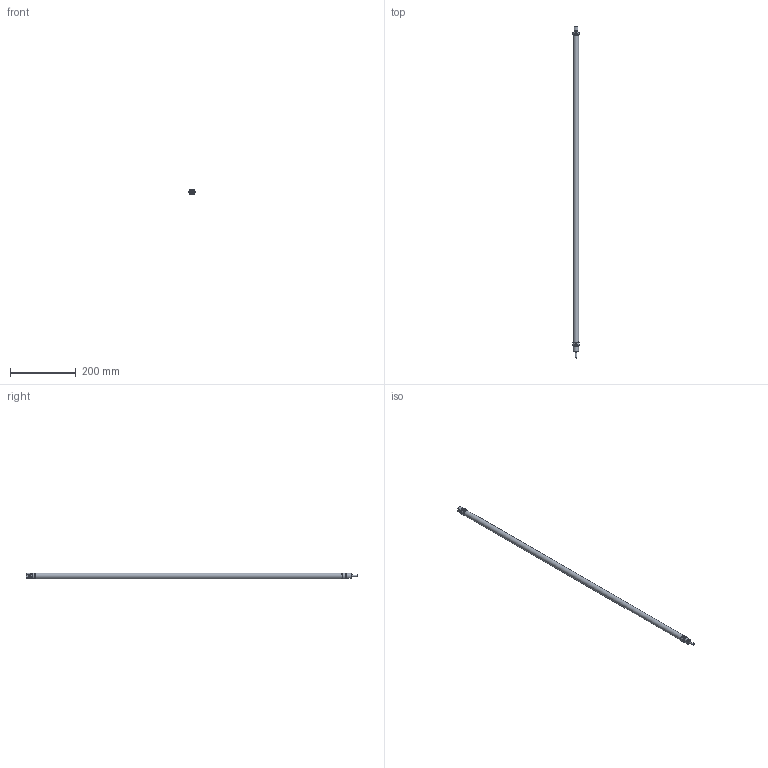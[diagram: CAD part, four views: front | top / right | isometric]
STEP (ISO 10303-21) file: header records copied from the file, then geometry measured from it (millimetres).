
FILE_DESCRIPTION((''),'2;1');
FILE_NAME('T:\Archivio Inventor\- 00 NUOVI STP PER SITO CON STELO CHE SI MUOVE\SERIE O\ODM\ODM016.---.GS.M\ODM016.900.GS.M.stp','2017-06-12T15:35:14',('carlo.corazza'),(''),'Autodesk Inventor 2013','Autodesk Inventor 2013','');
FILE_SCHEMA(('AUTOMOTIVE_DESIGN { 1 0 10303 214 1 1 1 1 }'));
Length unit declared in the file: millimetre
Products named in the file (5): ODM016..GS.M; CORPO-900; STELO-900; TA; TP
Assembly tree (4 placements, depth 2):
  ODM016..GS.M
    CORPO-900
    STELO-900
    TA
    TP
Bounding box: 18.95 x 1009 x 18.14 mm (x, y, z)
Volume: 69224.3 mm3; surface area: 120744.7 mm2
Topology: 4 solids, 4 shells, 98 faces, 204 edges, 129 vertices
Faces by surface type: plane 40, cylinder 28, cone 23, torus 7
Full cylindrical faces by diameter (mm): 4 x1, 4.134 x2, 5.9 x1, 6 x2, 6.5 x1, 7.1 x1, 9 x1, 9.1 x1, 11.1 x1, 11.2 x1, 13.7 x1, 16 x3, 17.2 x2, 17.27 x1
Entity records: 2545 total; most frequent: DIRECTION 444, CARTESIAN_POINT 422, ORIENTED_EDGE 296, AXIS2_PLACEMENT_3D 198, EDGE_LOOP 162, EDGE_CURVE 148, VERTEX_POINT 118, FACE_OUTER_BOUND 98
